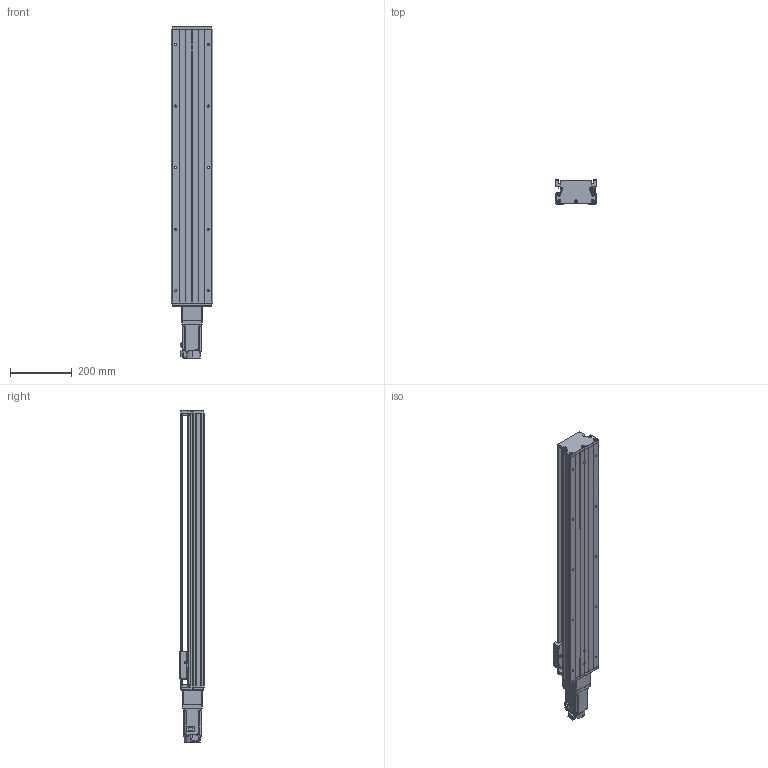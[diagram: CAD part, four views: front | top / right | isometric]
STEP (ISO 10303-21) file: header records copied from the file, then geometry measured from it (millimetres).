
FILE_DESCRIPTION (( 'STEP AP203' ), '1' );
FILE_NAME ('KTH130-750-BC-M40-C4.step', '2023-06-30T03:55:23', ( '微软用户' ), ( '微软中国' ), 'SwSTEP 2.0', 'SolidWorks 2020', '' );
FILE_SCHEMA (( 'CONFIG_CONTROL_DESIGN' ));
Length unit declared in the file: millimetre
Products named in the file (19): GBT70.1 M5℅16; す晦芛蹟隊 M3℅5; GBT 70.2-M3¡Á5_M3¡Á6; GTH14-001_750; GBT 70.3-M3℅8; CTHA60-017; KTH130-002_KTH130-002; CTHA86-006-1_M40; EE_SX911P_R; KTH130-004; CTHA86-013; CTHA60-016; CTHA86-027-1; KTH130-005; GBT 70.1-M3℅5; HG-KN43J-S100; GB1155-6X6; GBT77-2000 M3×3; KTH130-750-BC-M40-C4
Assembly tree (52 placements, depth 2):
  KTH130-750-BC-M40-C4
    GTH14-001_750
    KTH130-002_KTH130-002
    KTH130-004
    KTH130-005
    GB1155-6X6  x2
    GBT70.1 M5℅16  x10
    GBT 70.2-M3¡Á5_M3¡Á6  x4
    CTHA60-017  x3
    EE_SX911P_R  x3
    CTHA60-016  x2
    GBT 70.1-M3℅5  x6
    GBT77-2000 M3×3  x6
    す晦芛蹟隊 M3℅5  x2
    GBT 70.3-M3℅8  x6
    CTHA86-006-1_M40
    CTHA86-013
    CTHA86-027-1
    HG-KN43J-S100
Bounding box: 135 x 78 x 1078.7 mm (x, y, z)
Volume: 5491275.2 mm3; surface area: 837058.6 mm2
Topology: 55 solids, 55 shells, 2182 faces, 5278 edges, 3294 vertices
Faces by surface type: plane 1194, cylinder 600, cone 280, torus 96, sphere 12
Entity records: 39882 total; most frequent: CARTESIAN_POINT 8476, DIRECTION 5925, ORIENTED_EDGE 5840, EDGE_CURVE 2920, AXIS2_PLACEMENT_3D 2017, LINE 1891, VECTOR 1891, VERTEX_POINT 1866
